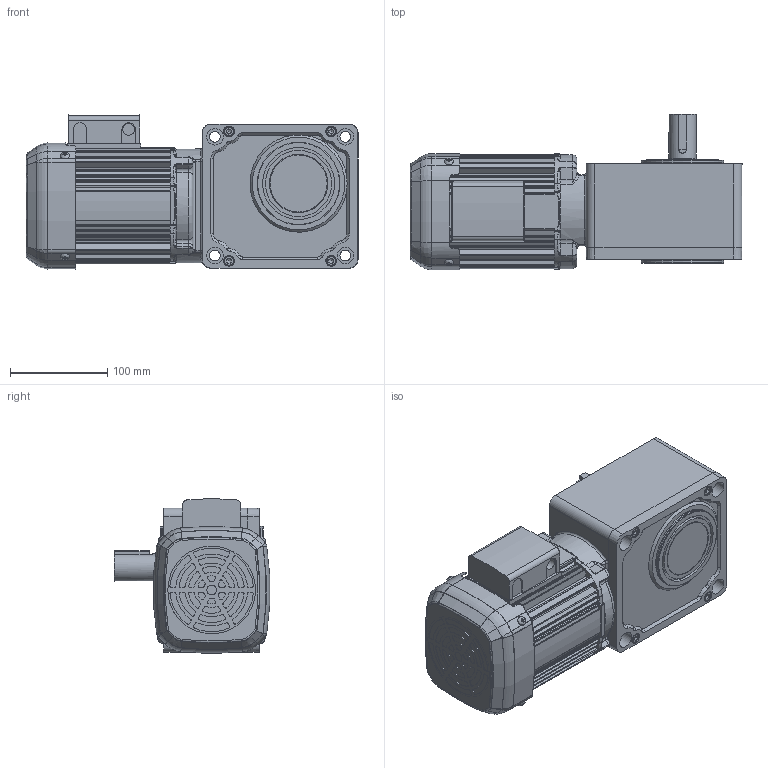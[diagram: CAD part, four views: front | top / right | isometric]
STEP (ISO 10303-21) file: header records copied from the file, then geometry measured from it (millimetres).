
FILE_DESCRIPTION( ( 'Unknown' ), '1' );
FILE_NAME( 'W:/gm/3D-WEB/GM-SHY/完成品/パーツ/完成品/三相/shyfrl_04_5-60.stp', 'Unknown', ( 'Unknown' ), ( 'Unknown' ), 'PSStep 11.0', 'Unknown', ' ' );
FILE_SCHEMA( ( 'AUTOMOTIVE_DESIGN { 1 0 10303 214 1 1 1 1 }' ) );
Length unit declared in the file: millimetre
Products named in the file (6): P728241_抂巕敔蔬
Bounding box: 341 x 159.62 x 158.19 mm (x, y, z)
Volume: 2719525.7 mm3; surface area: 414856.2 mm2
Topology: 6 solids, 18 shells, 1400 faces, 3481 edges, 2176 vertices
Faces by surface type: cylinder 575, plane 552, torus 97, bspline 94, cone 82
Full cylindrical faces by diameter (mm): 3.3 x4, 4 x4, 4.134 x8, 4.5 x8, 4.8 x4, 4.917 x1, 6 x6, 6.2 x1, 6.6 x4, 10 x5, 11 x8, 12 x2, 15 x1, 16 x1, 17 x8, 28 x1, 29 x2, 32 x1, 40 x1, 45 x1, 48.5 x1, 53.8 x1, 60 x4, 68 x3, 74 x2, 75 x1, 84.7 x2, 85 x4, 90 x1, 112.5 x1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
Entity records: 63894 total; most frequent: CARTESIAN_POINT 19828, DIRECTION 7232, ORIENTED_EDGE 6522, EDGE_CURVE 3261, AXIS2_PLACEMENT_3D 2896, VERTEX_POINT 2121, EDGE_LOOP 1645, CIRCLE 1568
